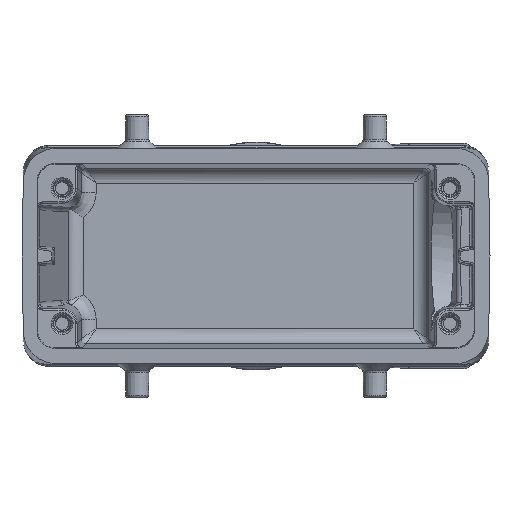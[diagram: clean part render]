
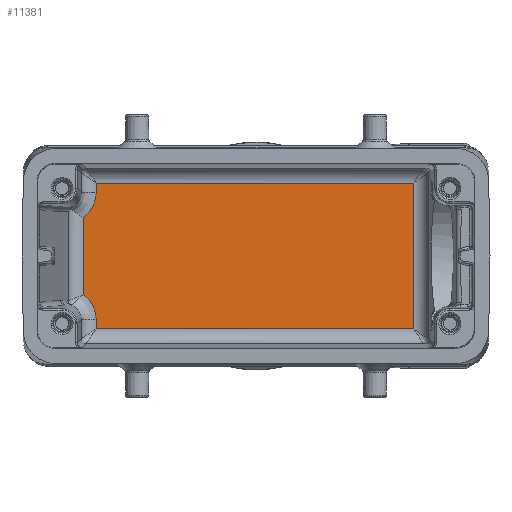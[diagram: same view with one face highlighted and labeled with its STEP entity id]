
A CAD part, front view. The second image highlights one B-rep face of the part: STEP entity #11381.
In plain terms, the highlighted planar face has unit normal (0, -1, 0).
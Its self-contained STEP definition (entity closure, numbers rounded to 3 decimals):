
#465 = DIRECTION ( 'NONE',  ( -1., 0., 0. ) ) ;
#616 = DIRECTION ( 'NONE',  ( 0., 0., -1. ) ) ;
#827 = VERTEX_POINT ( 'NONE', #2248 ) ;
#1273 = LINE ( 'NONE', #29647, #13876 ) ;
#1346 = CARTESIAN_POINT ( 'NONE',  ( -33.117, 70., -9.091 ) ) ;
#1573 = DIRECTION ( 'NONE',  ( 0., 0., -1. ) ) ;
#2248 = CARTESIAN_POINT ( 'NONE',  ( -31.941, 70., 12.691 ) ) ;
#2459 = EDGE_LOOP ( 'NONE', ( #6862, #9475, #3437, #13537, #25982, #12261, #9601, #13152 ) ) ;
#2705 = CARTESIAN_POINT ( 'NONE',  ( -31.941, 70., 14.564 ) ) ;
#3314 = VECTOR ( 'NONE', #465, 1000. ) ;
#3333 = VECTOR ( 'NONE', #20847, 1000. ) ;
#3373 = CARTESIAN_POINT ( 'NONE',  ( -31.964, 70., 12.086 ) ) ;
#3437 = ORIENTED_EDGE ( 'NONE', *, *, #14091, .T. ) ;
#3578 = CARTESIAN_POINT ( 'NONE',  ( -31.942, 70., 12.447 ) ) ;
#3592 = EDGE_CURVE ( 'NONE', #19859, #30255, #14911, .T. ) ;
#3690 = CARTESIAN_POINT ( 'NONE',  ( -32.06, 70., 11.496 ) ) ;
#3968 = CARTESIAN_POINT ( 'NONE',  ( -31.942, 70., -12.203 ) ) ;
#4082 = CARTESIAN_POINT ( 'NONE',  ( -34.121, 70., -8.059 ) ) ;
#4168 = LINE ( 'NONE', #7990, #4962 ) ;
#4188 = CARTESIAN_POINT ( 'NONE',  ( -32., 70., -11.727 ) ) ;
#4376 = EDGE_CURVE ( 'NONE', #29942, #23841, #8429, .T. ) ;
#4962 = VECTOR ( 'NONE', #616, 1000. ) ;
#5000 = CARTESIAN_POINT ( 'NONE',  ( 31.477, 70., -18.5 ) ) ;
#5299 = B_SPLINE_CURVE_WITH_KNOTS ( 'NONE', 3,
 ( #18468, #3578, #3373, #21258, #3690, #21366, #26460, #29099, #11317, #31527, #13950, #26883, #29312, #11535, #6663, #16724 ),
 .UNSPECIFIED., .F., .F.,
 ( 4, 1, 2, 2, 2, 1, 2, 2, 4 ),
 ( 0., 0.125, 0.188, 0.25, 0.5, 0.625, 0.687, 0.75, 1. ),
 .UNSPECIFIED. ) ;
#5702 = LINE ( 'NONE', #21618, #26272 ) ;
#6127 = CARTESIAN_POINT ( 'NONE',  ( -34.509, 70.011, -7.769 ) ) ;
#6663 = CARTESIAN_POINT ( 'NONE',  ( -34.11, 70., 8.049 ) ) ;
#6862 = ORIENTED_EDGE ( 'NONE', *, *, #14970, .T. ) ;
#7239 = CARTESIAN_POINT ( 'NONE',  ( -31.941, 70., -14.564 ) ) ;
#7646 = CARTESIAN_POINT ( 'NONE',  ( 31.477, 70., 14.564 ) ) ;
#7990 = CARTESIAN_POINT ( 'NONE',  ( -31.941, 70., -18.5 ) ) ;
#8290 = FACE_OUTER_BOUND ( 'NONE', #2459, .T. ) ;
#8429 = LINE ( 'NONE', #20108, #3314 ) ;
#8892 = DIRECTION ( 'NONE',  ( 0., 0., -1. ) ) ;
#8932 = CARTESIAN_POINT ( 'NONE',  ( -33.596, 70., -8.546 ) ) ;
#8986 = VERTEX_POINT ( 'NONE', #16053 ) ;
#9037 = EDGE_CURVE ( 'NONE', #827, #8986, #5299, .T. ) ;
#9318 = VECTOR ( 'NONE', #15033, 1000. ) ;
#9475 = ORIENTED_EDGE ( 'NONE', *, *, #20727, .T. ) ;
#9601 = ORIENTED_EDGE ( 'NONE', *, *, #31614, .T. ) ;
#10369 = CARTESIAN_POINT ( 'NONE',  ( -34.509, 70., 7.769 ) ) ;
#11317 = CARTESIAN_POINT ( 'NONE',  ( -32.733, 70., 9.702 ) ) ;
#11381 = ADVANCED_FACE ( 'NONE', ( #8290 ), #24856, .T. ) ;
#11485 = CARTESIAN_POINT ( 'NONE',  ( -51.563, 70., -18.5 ) ) ;
#11535 = CARTESIAN_POINT ( 'NONE',  ( -33.752, 70., 8.368 ) ) ;
#11705 = CARTESIAN_POINT ( 'NONE',  ( -31.941, 70., -12.691 ) ) ;
#12261 = ORIENTED_EDGE ( 'NONE', *, *, #9037, .T. ) ;
#13152 = ORIENTED_EDGE ( 'NONE', *, *, #3592, .T. ) ;
#13537 = ORIENTED_EDGE ( 'NONE', *, *, #4376, .T. ) ;
#13876 = VECTOR ( 'NONE', #14279, 1000. ) ;
#13950 = CARTESIAN_POINT ( 'NONE',  ( -33.131, 70., 9.102 ) ) ;
#14091 = EDGE_CURVE ( 'NONE', #28797, #29942, #21578, .T. ) ;
#14221 = CARTESIAN_POINT ( 'NONE',  ( -33.763, 70., -8.378 ) ) ;
#14279 = DIRECTION ( 'NONE',  ( 1., 0., 0. ) ) ;
#14911 = B_SPLINE_CURVE_WITH_KNOTS ( 'NONE', 3,
 ( #18845, #19179, #4082, #14221, #8932, #1346, #31907, #16781, #31685, #19073, #19288, #29045, #4188, #3968, #24422 ),
 .UNSPECIFIED., .F., .F.,
 ( 4, 2, 2, 2, 1, 2, 2, 4 ),
 ( 0., 0.125, 0.25, 0.5, 0.625, 0.687, 0.75, 1. ),
 .UNSPECIFIED. ) ;
#14970 = EDGE_CURVE ( 'NONE', #30255, #26887, #4168, .T. ) ;
#15033 = DIRECTION ( 'NONE',  ( 0., 0., 1. ) ) ;
#16053 = CARTESIAN_POINT ( 'NONE',  ( -34.509, 70.013, 7.769 ) ) ;
#16244 = EDGE_CURVE ( 'NONE', #23841, #827, #5702, .T. ) ;
#16724 = CARTESIAN_POINT ( 'NONE',  ( -34.509, 70.013, 7.769 ) ) ;
#16781 = CARTESIAN_POINT ( 'NONE',  ( -32.51, 70., -10.129 ) ) ;
#18468 = CARTESIAN_POINT ( 'NONE',  ( -31.941, 70., 12.691 ) ) ;
#18845 = CARTESIAN_POINT ( 'NONE',  ( -34.509, 70.011, -7.769 ) ) ;
#19073 = CARTESIAN_POINT ( 'NONE',  ( -32.246, 70., -10.798 ) ) ;
#19179 = CARTESIAN_POINT ( 'NONE',  ( -34.31, 70., -7.909 ) ) ;
#19288 = CARTESIAN_POINT ( 'NONE',  ( -32.175, 70., -11.028 ) ) ;
#19859 = VERTEX_POINT ( 'NONE', #6127 ) ;
#20108 = CARTESIAN_POINT ( 'NONE',  ( -265.727, 70., 14.564 ) ) ;
#20727 = EDGE_CURVE ( 'NONE', #26887, #28797, #1273, .T. ) ;
#20847 = DIRECTION ( 'NONE',  ( 0., 0., -1. ) ) ;
#21084 = CARTESIAN_POINT ( 'NONE',  ( 31.477, 70., -14.564 ) ) ;
#21258 = CARTESIAN_POINT ( 'NONE',  ( -32.017, 70., 11.731 ) ) ;
#21366 = CARTESIAN_POINT ( 'NONE',  ( -32.085, 70., 11.38 ) ) ;
#21532 = AXIS2_PLACEMENT_3D ( 'NONE', #11485, #21548, #1573 ) ;
#21548 = DIRECTION ( 'NONE',  ( 0., -1., 0. ) ) ;
#21578 = LINE ( 'NONE', #5000, #9318 ) ;
#21618 = CARTESIAN_POINT ( 'NONE',  ( -31.941, 70., -18.5 ) ) ;
#23841 = VERTEX_POINT ( 'NONE', #2705 ) ;
#23888 = LINE ( 'NONE', #10369, #3333 ) ;
#24422 = CARTESIAN_POINT ( 'NONE',  ( -31.941, 70., -12.691 ) ) ;
#24856 = PLANE ( 'NONE',  #21532 ) ;
#25982 = ORIENTED_EDGE ( 'NONE', *, *, #16244, .T. ) ;
#26272 = VECTOR ( 'NONE', #8892, 1000. ) ;
#26460 = CARTESIAN_POINT ( 'NONE',  ( -32.229, 70., 10.792 ) ) ;
#26883 = CARTESIAN_POINT ( 'NONE',  ( -33.279, 70., 8.912 ) ) ;
#26887 = VERTEX_POINT ( 'NONE', #7239 ) ;
#28797 = VERTEX_POINT ( 'NONE', #21084 ) ;
#29045 = CARTESIAN_POINT ( 'NONE',  ( -32.142, 70., -11.146 ) ) ;
#29099 = CARTESIAN_POINT ( 'NONE',  ( -32.399, 70., 10.342 ) ) ;
#29312 = CARTESIAN_POINT ( 'NONE',  ( -33.357, 70., 8.818 ) ) ;
#29647 = CARTESIAN_POINT ( 'NONE',  ( -51.563, 70., -14.564 ) ) ;
#29942 = VERTEX_POINT ( 'NONE', #7646 ) ;
#30255 = VERTEX_POINT ( 'NONE', #11705 ) ;
#31527 = CARTESIAN_POINT ( 'NONE',  ( -32.918, 70., 9.393 ) ) ;
#31614 = EDGE_CURVE ( 'NONE', #8986, #19859, #23888, .T. ) ;
#31685 = CARTESIAN_POINT ( 'NONE',  ( -32.363, 70., -10.457 ) ) ;
#31907 = CARTESIAN_POINT ( 'NONE',  ( -32.845, 70., -9.488 ) ) ;
